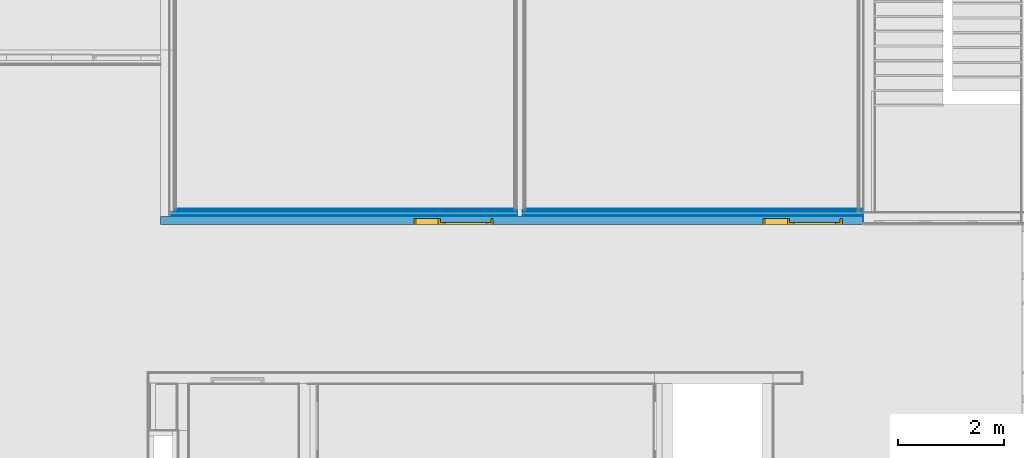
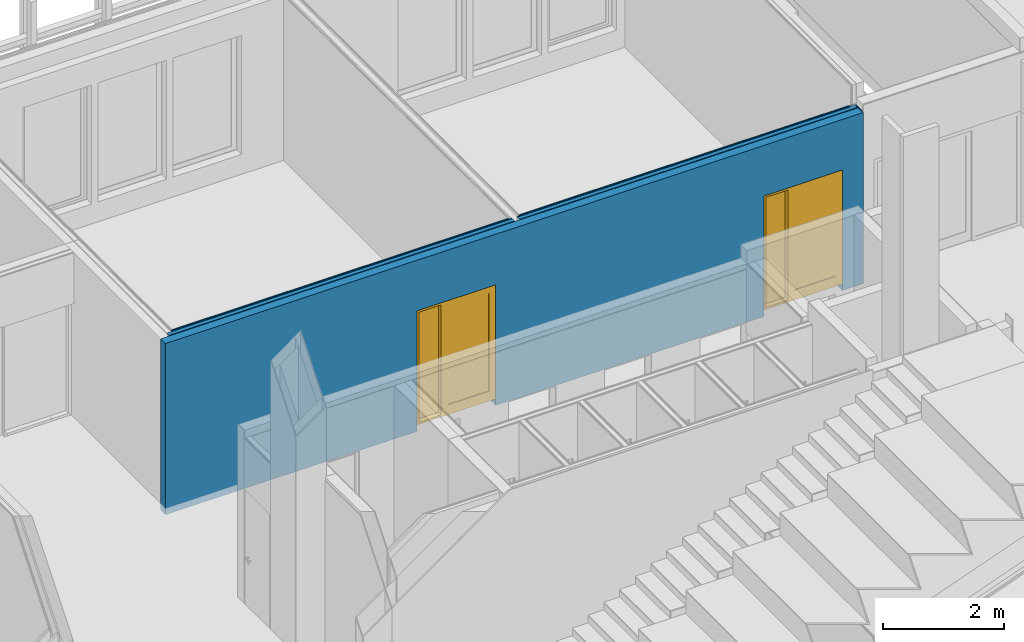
# One storey, part 61 of 139: 7 building element parts, 2 doors, 2 openings, 1 element without a shape of its own.
"""IFC2X3 building model written with IfcOpenShell, lengths in millimetres."""

from ifc_helpers import new_model, entity, si_unit, converted_unit, derived_unit, money_unit, direction, frame, origin_with_axes, place, context, subcontext, project, spatial, open_shell, faceted_brep, surface_model, source, transform, mapped, material, type_object, element, fill, aggregate, save


model = new_model("IFC2X3")

# Units and contexts
model_context = context("Model", 3, precision=0.01, world=origin_with_axes(), true_north=direction((0.0, 1.0)))
body_context = subcontext(model_context, "Body", "Model", "MODEL_VIEW")
ifc_project = project(units=[si_unit("LENGTHUNIT", "METRE", prefix="MILLI"), si_unit("AREAUNIT", "SQUARE_METRE"), si_unit("VOLUMEUNIT", "CUBIC_METRE"), converted_unit("PLANEANGLEUNIT", "DEGREE", entity("IfcPlaneAngleMeasure", 0.0174532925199), si_unit("PLANEANGLEUNIT", "RADIAN"), dimensions=[0, 0, 0, 0, 0, 0, 0]), money_unit("EUR"), converted_unit("TIMEUNIT", "Year", entity("IfcTimeMeasure", 31556926.0), si_unit("TIMEUNIT", "SECOND"), dimensions=[0, 0, 1, 0, 0, 0, 0]), si_unit("MASSUNIT", "GRAM", prefix="KILO"), si_unit("THERMODYNAMICTEMPERATUREUNIT", "DEGREE_CELSIUS"), si_unit("LUMINOUSINTENSITYUNIT", "LUMEN"), si_unit("ENERGYUNIT", "JOULE", prefix="MEGA"), derived_unit("THERMALCONDUCTANCEUNIT", [(si_unit("POWERUNIT", "WATT"), 1), (si_unit("LENGTHUNIT", "METRE"), -1), (si_unit("THERMODYNAMICTEMPERATUREUNIT", "KELVIN"), -1)]), derived_unit("SPECIFICHEATCAPACITYUNIT", [(si_unit("ENERGYUNIT", "JOULE"), 1), (si_unit("MASSUNIT", "GRAM", prefix="KILO"), -1), (si_unit("THERMODYNAMICTEMPERATUREUNIT", "KELVIN"), -1)]), derived_unit("MASSDENSITYUNIT", [(si_unit("MASSUNIT", "GRAM", prefix="KILO"), 1), (si_unit("VOLUMEUNIT", "CUBIC_METRE"), -1)])], contexts=[model_context])

# Site, building, storey
site_placement = place(None, origin_with_axes())
site = spatial("IfcSite", under=ifc_project, at=site_placement, Name="Kolde pst 67a", CompositionType="ELEMENT")
building_placement = place(site_placement, origin_with_axes())
building = spatial("IfcBuilding", under=site, at=building_placement, Name="Riigigümnaasium", CompositionType="ELEMENT")
storey_placement = place(building_placement, frame((0.0, 0.0, 4600.0), z_axis=(0.0, 0.0, 1.0), x_axis=(1.0, 0.0, 0.0)))
storey = spatial("IfcBuildingStorey", under=building, at=storey_placement, Name="2. korrus", CompositionType="ELEMENT", Elevation=4600.0)

# Door
door_style = type_object("IfcDoorStyle", Name="Door with Sidelight on Side 2 25", ConstructionType="NOTDEFINED", OperationType="SINGLE_SWING_LEFT", ParameterTakesPrecedence=False, Sizeable=False)
shared_shape = source(origin_with_axes(), body_context, "Body", "SurfaceModel", [
    faceted_brep([(750.0, 0.0, 0.0), (750.0, -115.0, 0.0), (710.0, -115.0, 0.0), (710.0, 0.0, 0.0), (750.0, 0.0, 2260.0), (750.0, -115.0, 2260.0), (710.0, -115.0, 2260.0), (710.0, -115.0, 40.0), (710.0, 0.0, 40.0), (710.0, 0.0, 2260.0)], [[[0, 1, 2, 3]], [[4, 5, 1, 0]], [[1, 5, 6, 7, 2]], [[3, 2, 7, 8]], [[0, 3, 8, 9, 4]], [[9, 6, 5, 4]], [[8, 7, 6, 9]]]),
    faceted_brep([(250.0, -40.0, 0.0), (250.0, -115.0, 0.0), (250.0, -115.0, 2260.0), (250.0, -40.0, 2260.0), (262.0, -40.0, 0.0), (262.0, 0.0, 0.0), (290.0, 0.0, 0.0), (290.0, -115.0, 0.0), (290.0, -115.0, 40.0), (290.0, -115.0, 2260.0), (262.0, -40.0, 2260.0), (290.0, 0.0, 2260.0), (262.0, 0.0, 2260.0), (290.0, 0.0, 40.0)], [[[0, 1, 2, 3]], [[4, 5, 6, 7, 1, 0]], [[7, 8, 9, 2, 1]], [[10, 3, 2, 9, 11, 12]], [[10, 4, 0, 3]], [[12, 5, 4, 10]], [[12, 11, 13, 6, 5]], [[6, 13, 8, 7]], [[13, 11, 9, 8]]]),
    faceted_brep([(710.0, 0.0, 40.0), (710.0, -115.0, 40.0), (710.0, -115.0, 0.0), (710.0, 0.0, 0.0), (290.0, 0.0, 40.0), (290.0, -115.0, 40.0), (290.0, -115.0, 0.0), (290.0, 0.0, 0.0)], [[[0, 1, 2, 3]], [[4, 5, 1, 0]], [[1, 5, 6, 2]], [[3, 2, 6, 7]], [[0, 3, 7, 4]], [[7, 6, 5, 4]]]),
    faceted_brep([(-722.0, -40.0, 2260.0), (-722.0, 0.0, 2260.0), (-750.0, 0.0, 2260.0), (-750.0, -115.0, 2260.0), (-710.0, -115.0, 2260.0), (-710.0, -40.0, 2260.0), (-722.0, -40.0, 0.0), (-722.0, 0.0, 0.0), (-750.0, 0.0, 0.0), (-750.0, -115.0, 0.0), (-710.0, -115.0, 0.0), (-710.0, -40.0, 0.0)], [[[0, 1, 2, 3, 4, 5]], [[0, 6, 7, 1]], [[7, 8, 2, 1]], [[2, 8, 9, 3]], [[3, 9, 10, 4]], [[5, 4, 10, 11]], [[5, 11, 6, 0]], [[6, 11, 10, 9, 8, 7]]]),
    faceted_brep([(262.0, 0.0, 2272.0), (-722.0, 0.0, 2272.0), (-722.0, 0.0, 2260.0), (-750.0, 0.0, 2260.0), (-750.0, 0.0, 2300.0), (750.0, 0.0, 2300.0), (750.0, 0.0, 2260.0), (710.0, 0.0, 2260.0), (290.0, 0.0, 2260.0), (262.0, 0.0, 2260.0), (262.0, -40.0, 2272.0), (-722.0, -40.0, 2272.0), (-722.0, -40.0, 2260.0), (-710.0, -40.0, 2260.0), (-710.0, -115.0, 2260.0), (-750.0, -115.0, 2260.0), (-750.0, -115.0, 2300.0), (750.0, -115.0, 2300.0), (750.0, -115.0, 2260.0), (710.0, -115.0, 2260.0), (290.0, -115.0, 2260.0), (262.0, -40.0, 2260.0), (250.0, -115.0, 2260.0)], [[[0, 1, 2, 3, 4, 5, 6, 7, 8, 9]], [[0, 10, 11, 1]], [[1, 11, 12, 2]], [[12, 13, 14, 15, 3, 2]], [[4, 3, 15, 16]], [[5, 4, 16, 17]], [[6, 5, 17, 18]], [[7, 6, 18, 19]], [[8, 7, 19, 20]], [[21, 9, 8, 20, 22, 14, 13]], [[9, 21, 10, 0]], [[12, 11, 10, 21, 13]], [[14, 22, 20, 19, 18, 17, 16, 15]]]),
    faceted_brep([(-722.0, 0.0, 200.0), (-622.0, 0.0, 200.0), (-622.0, -40.0, 200.0), (-722.0, -40.0, 200.0), (-722.0, 0.0, 2172.0), (-622.0, 0.0, 2172.0), (-622.0, -40.0, 2172.0), (-722.0, -40.0, 2172.0)], [[[0, 1, 2, 3]], [[0, 4, 5, 1]], [[1, 5, 6, 2]], [[3, 2, 6, 7]], [[4, 0, 3, 7]], [[5, 4, 7, 6]]]),
    faceted_brep([(262.0, 0.0, 200.0), (262.0, 0.0, 2172.0), (262.0, -40.0, 2172.0), (262.0, -40.0, 200.0), (162.0, 0.0, 200.0), (162.0, 0.0, 2172.0), (162.0, -40.0, 2172.0), (162.0, -40.0, 200.0)], [[[0, 1, 2, 3]], [[0, 4, 5, 1]], [[1, 5, 6, 2]], [[3, 2, 6, 7]], [[4, 0, 3, 7]], [[5, 4, 7, 6]]]),
    faceted_brep([(-722.0, 0.0, 0.0), (262.0, 0.0, 0.0), (262.0, -40.0, 0.0), (-722.0, -40.0, 0.0), (-722.0, 0.0, 200.0), (-622.0, 0.0, 200.0), (162.0, 0.0, 200.0), (262.0, 0.0, 200.0), (262.0, -40.0, 200.0), (162.0, -40.0, 200.0), (-622.0, -40.0, 200.0), (-722.0, -40.0, 200.0)], [[[0, 1, 2, 3]], [[0, 4, 5, 6, 7, 1]], [[1, 7, 8, 2]], [[3, 2, 8, 9, 10, 11]], [[4, 0, 3, 11]], [[5, 4, 11, 10]], [[6, 5, 10, 9]], [[7, 6, 9, 8]]]),
    faceted_brep([(-722.0, 0.0, 2272.0), (-722.0, 0.0, 2172.0), (-722.0, -40.0, 2172.0), (-722.0, -40.0, 2272.0), (262.0, 0.0, 2272.0), (262.0, 0.0, 2172.0), (162.0, 0.0, 2172.0), (-622.0, 0.0, 2172.0), (-622.0, -40.0, 2172.0), (162.0, -40.0, 2172.0), (262.0, -40.0, 2172.0), (262.0, -40.0, 2272.0)], [[[0, 1, 2, 3]], [[0, 4, 5, 6, 7, 1]], [[1, 7, 8, 2]], [[3, 2, 8, 9, 10, 11]], [[4, 0, 3, 11]], [[5, 4, 11, 10]], [[6, 5, 10, 9]], [[7, 6, 9, 8]]]),
    surface_model("IfcShellBasedSurfaceModel", [(-622.0, -14.0, 200.0), (-622.0, -14.0, 2172.0), (162.0, -14.0, 2172.0), (162.0, -14.0, 200.0)], [open_shell([[[0, 1, 2, 3]]])]),
    surface_model("IfcShellBasedSurfaceModel", [(-622.0, -26.0, 200.0), (162.0, -26.0, 200.0), (162.0, -26.0, 2172.0), (-622.0, -26.0, 2172.0)], [open_shell([[[0, 1, 2, 3]]])]),
    surface_model("IfcShellBasedSurfaceModel", [(710.0, -91.0, 40.0), (290.0, -91.0, 40.0), (290.0, -91.0, 2260.0), (710.0, -91.0, 2260.0)], [open_shell([[[0, 1, 2, 3]]])]),
    surface_model("IfcShellBasedSurfaceModel", [(710.0, -103.0, 40.0), (710.0, -103.0, 2260.0), (290.0, -103.0, 2260.0), (290.0, -103.0, 40.0)], [open_shell([[[0, 1, 2, 3]]])]),
])
wall_placement = place(storey_placement, frame((36439.99923, 52580.0001843, -130.0), z_axis=(0.0, 0.0, 1.0), x_axis=(1.0, 0.0, 0.0)))
opening_1_placement = place(wall_placement, frame((12000.0108255, 0.0, 130.0), z_axis=(0.0, 0.0, 1.0), x_axis=(1.0, 0.0, 0.0)))
door_1_placement = place(opening_1_placement, frame((750.0, 0.0, 0.0), z_axis=(0.0, 0.0, 1.0), x_axis=(-1.0, 0.0, 0.0)))
door_1 = element("IfcDoor", 1, at=door_1_placement, inside=storey, type_object=door_style, Name="Siseuks", ObjectType="DOOR", OverallHeight=2300.0, OverallWidth=1500.0, context=body_context, shape_type="MappedRepresentation", body=[
    mapped(shared_shape, transform((750.0, 0.0, 0.0))),
])

opening_2_placement = place(wall_placement, frame((5388.04214934, 0.0, 130.0), z_axis=(0.0, 0.0, 1.0), x_axis=(1.0, 0.0, 0.0)))
door_2_placement = place(opening_2_placement, frame((750.0, 0.0, 0.0), z_axis=(0.0, 0.0, 1.0), x_axis=(-1.0, 0.0, 0.0)))
door_2 = element("IfcDoor", 2, at=door_2_placement, inside=storey, type_object=door_style, Name="Siseuks", ObjectType="DOOR", OverallHeight=2300.0, OverallWidth=1500.0, context=body_context, shape_type="MappedRepresentation", body=[
    mapped(shared_shape, transform((750.0, 0.0, 0.0))),
])

# Wall, opening
wall_type = type_object("IfcWallType", Name="SS-CLT-16/1_vill75+krohv 52 dB 300", PredefinedType="NOTDEFINED")
wall = element("IfcWall", 3, at=wall_placement, inside=storey, type_object=wall_type, Name="Sisesein")
opening_1 = element("IfcOpeningElement", 4, at=opening_1_placement, cuts=wall, Name="Siseuks", context=body_context, shape_type="Brep", body=[
    faceted_brep([(750.0, -600.0, 2300.0), (750.0, -600.0, 0.0), (750.0, 300.0, 0.0), (750.0, 300.0, 2300.0), (-750.0, -600.0, 2300.0), (-750.0, -600.0, 0.0), (-750.0, 300.0, 0.0), (-750.0, 300.0, 2300.0)], [[[0, 1, 2, 3]], [[0, 4, 5, 1]], [[1, 5, 6, 2]], [[3, 2, 6, 7]], [[4, 0, 3, 7]], [[5, 4, 7, 6]]]),
])

fill(opening_1, door_1)

# Opening
opening_2 = element("IfcOpeningElement", 5, at=opening_2_placement, cuts=wall, Name="Siseuks", context=body_context, shape_type="Brep", body=[
    faceted_brep([(750.0, -600.0, 2300.0), (750.0, -600.0, 0.0), (750.0, 300.0, 0.0), (750.0, 300.0, 2300.0), (-750.0, -600.0, 2300.0), (-750.0, -600.0, 0.0), (-750.0, 300.0, 0.0), (-750.0, 300.0, 2300.0)], [[[0, 1, 2, 3]], [[0, 4, 5, 1]], [[1, 5, 6, 2]], [[3, 2, 6, 7]], [[4, 0, 3, 7]], [[5, 4, 7, 6]]]),
])

fill(opening_2, door_2)

# Building element part
ifc_material_1 = material(Name="_VIIMISTLUSKIHT - viimistlus vastavalt SA osale")
building_element_part_1_placement = place(wall_placement, origin_with_axes())
building_element_part_1 = element("IfcBuildingElementPart", 6, at=building_element_part_1_placement, material=ifc_material_1, Name="_VIIMISTLUSKIHT - viimistlus vastavalt SA osale", context=body_context, shape_type="Brep", body=[
    faceted_brep([(4638.04214934, 300.0, 2430.0), (4638.04214934, 300.0, 130.0), (130.0, 300.0, 130.0), (130.0, 300.0, 3450.0), (6543.04214934, 300.0, 3450.0), (6543.04214934, 300.0, 130.0), (6138.04214934, 300.0, 130.0), (6138.04214934, 300.0, 2430.0), (4638.04214934, 290.0, 2430.0), (4638.04214934, 290.0, 130.0), (130.0, 290.0, 130.0), (130.0, 290.0, 3450.0), (6543.04214934, 290.0, 3450.0), (6543.04214934, 290.0, 130.0), (6138.04214934, 290.0, 130.0), (6138.04214934, 290.0, 2430.0)], [[[0, 1, 2, 3, 4, 5, 6, 7]], [[1, 0, 8, 9]], [[1, 9, 10, 2]], [[3, 2, 10, 11]], [[4, 3, 11, 12]], [[12, 13, 5, 4]], [[14, 6, 5, 13]], [[7, 6, 14, 15]], [[0, 7, 15, 8]], [[15, 14, 13, 12, 11, 10, 9, 8]]]),
    faceted_brep([(11250.0108255, 300.0, 2430.0), (11250.0108255, 300.0, 130.0), (6753.04214934, 300.0, 130.0), (6753.04214934, 300.0, 3450.0), (13140.6524653, 300.0, 3450.0), (13140.6524653, 300.0, 3470.0), (13150.0108255, 300.0, 3470.0), (13150.0108255, 300.0, 130.0), (12750.0108255, 300.0, 130.0), (12750.0108255, 300.0, 2430.0), (11250.0108255, 290.0, 2430.0), (11250.0108255, 290.0, 130.0), (6753.04214934, 290.0, 130.0), (6753.04214934, 290.0, 3450.0), (13140.6397328, 290.0, 3450.0), (13140.6397328, 290.0, 3470.0), (13150.0108255, 290.0, 3470.0), (13150.0108255, 290.0, 130.0), (12750.0108255, 290.0, 130.0), (12750.0108255, 290.0, 2430.0)], [[[0, 1, 2, 3, 4, 5, 6, 7, 8, 9]], [[1, 0, 10, 11]], [[1, 11, 12, 2]], [[3, 2, 12, 13]], [[3, 13, 14, 4]], [[5, 4, 14, 15]], [[15, 16, 6, 5]], [[7, 6, 16, 17]], [[18, 8, 7, 17]], [[9, 8, 18, 19]], [[0, 9, 19, 10]], [[19, 18, 17, 16, 15, 14, 13, 12, 11, 10]]]),
])

ifc_material_2 = material(Name="_PLAATMATERJAL - tuletõkkekipsplaat, Knauf Red GKF või samaväärne")
building_element_part_2_placement = place(wall_placement, origin_with_axes())
building_element_part_2 = element("IfcBuildingElementPart", 7, at=building_element_part_2_placement, material=ifc_material_2, Name="_PLAATMATERJAL - tuletõkkekipsplaat, Knauf Red GKF või samaväärne", context=body_context, shape_type="Brep", body=[
    faceted_brep([(4638.04214934, 290.0, 2430.0), (4638.04214934, 290.0, 130.0), (4638.04214934, 290.0, 127.0), (115.0, 290.0, 127.0), (115.0, 290.0, 3450.0), (6558.04214934, 290.0, 3450.0), (6558.04214934, 290.0, 127.0), (6138.04214934, 290.0, 127.0), (6138.04214934, 290.0, 130.0), (6138.04214934, 290.0, 2430.0), (4638.04214934, 275.0, 2430.0), (4638.04214934, 275.0, 130.0), (4638.04214934, 275.0, 127.0), (115.0, 275.0, 127.0), (115.0, 275.0, 3450.0), (6558.04214934, 275.0, 3450.0), (6558.04214934, 275.0, 127.0), (6138.04214934, 275.0, 127.0), (6138.04214934, 275.0, 130.0), (6138.04214934, 275.0, 2430.0)], [[[0, 1, 2, 3, 4, 5, 6, 7, 8, 9]], [[1, 0, 10, 11]], [[1, 11, 12, 2]], [[12, 13, 3, 2]], [[4, 3, 13, 14]], [[5, 4, 14, 15]], [[15, 16, 6, 5]], [[7, 6, 16, 17]], [[18, 8, 7, 17]], [[9, 8, 18, 19]], [[0, 9, 19, 10]], [[19, 18, 17, 16, 15, 14, 13, 12, 11, 10]]]),
    faceted_brep([(11250.0108255, 290.0, 2430.0), (11250.0108255, 290.0, 130.0), (11250.0108255, 290.0, 127.0), (6738.04214934, 290.0, 127.0), (6738.04214934, 290.0, 3450.0), (13140.6397328, 290.0, 3450.0), (13140.6397328, 290.0, 3470.0), (13150.0108255, 290.0, 3470.0), (13150.0108255, 290.0, 127.0), (12750.0108255, 290.0, 127.0), (12750.0108255, 290.0, 130.0), (12750.0108255, 290.0, 2430.0), (11250.0108255, 275.0, 2430.0), (11250.0108255, 275.0, 130.0), (11250.0108255, 275.0, 127.0), (6738.04214934, 275.0, 127.0), (6738.04214934, 275.0, 3450.0), (13140.6206341, 275.0, 3450.0), (13140.6206341, 275.0, 3470.0), (13150.0108255, 275.0, 3470.0), (13150.0108255, 275.0, 127.0), (12750.0108255, 275.0, 127.0), (12750.0108255, 275.0, 130.0), (12750.0108255, 275.0, 2430.0)], [[[0, 1, 2, 3, 4, 5, 6, 7, 8, 9, 10, 11]], [[1, 0, 12, 13]], [[1, 13, 14, 2]], [[14, 15, 3, 2]], [[4, 3, 15, 16]], [[4, 16, 17, 5]], [[6, 5, 17, 18]], [[18, 19, 7, 6]], [[8, 7, 19, 20]], [[9, 8, 20, 21]], [[22, 10, 9, 21]], [[11, 10, 22, 23]], [[0, 11, 23, 12]], [[23, 22, 21, 20, 19, 18, 17, 16, 15, 14, 13, 12]]]),
])

building_element_part_3_placement = place(wall_placement, origin_with_axes())
building_element_part_3 = element("IfcBuildingElementPart", 8, at=building_element_part_3_placement, material=ifc_material_2, Name="_PLAATMATERJAL - tuletõkkekipsplaat, Knauf Red GKF või samaväärne", context=body_context, shape_type="Brep", body=[
    faceted_brep([(4638.04214934, 275.0, 2430.0), (4638.04214934, 275.0, 130.0), (4638.04214934, 275.0, 127.0), (100.0, 275.0, 127.0), (100.0, 275.0, 3450.0), (6598.04214934, 275.0, 3450.0), (6598.04214934, 275.0, 127.0), (6138.04214934, 275.0, 127.0), (6138.04214934, 275.0, 130.0), (6138.04214934, 275.0, 2430.0), (4638.04214934, 260.0, 2430.0), (4638.04214934, 260.0, 130.0), (4638.04214934, 260.0, 127.0), (100.0, 260.0, 127.0), (100.0, 260.0, 3450.0), (6598.04214934, 260.0, 3450.0), (6598.04214934, 260.0, 127.0), (6138.04214934, 260.0, 127.0), (6138.04214934, 260.0, 130.0), (6138.04214934, 260.0, 2430.0)], [[[0, 1, 2, 3, 4, 5, 6, 7, 8, 9]], [[1, 0, 10, 11]], [[1, 11, 12, 2]], [[12, 13, 3, 2]], [[4, 3, 13, 14]], [[5, 4, 14, 15]], [[15, 16, 6, 5]], [[7, 6, 16, 17]], [[18, 8, 7, 17]], [[9, 8, 18, 19]], [[0, 9, 19, 10]], [[19, 18, 17, 16, 15, 14, 13, 12, 11, 10]]]),
    faceted_brep([(11250.0108255, 275.0, 2430.0), (11250.0108255, 275.0, 130.0), (11250.0108255, 275.0, 127.0), (6698.04214934, 275.0, 127.0), (6698.04214934, 275.0, 3450.0), (13140.6206341, 275.0, 3450.0), (13140.6206341, 275.0, 3470.0), (13150.0108255, 275.0, 3470.0), (13150.0108255, 275.0, 127.0), (12750.0108255, 275.0, 127.0), (12750.0108255, 275.0, 130.0), (12750.0108255, 275.0, 2430.0), (11250.0108255, 260.0, 2430.0), (11250.0108255, 260.0, 130.0), (11250.0108255, 260.0, 127.0), (6698.04214934, 260.0, 127.0), (6698.04214934, 260.0, 3450.0), (13140.6015354, 260.0, 3450.0), (13140.6015354, 260.0, 3470.0), (13150.0108255, 260.0, 3470.0), (13150.0108255, 260.0, 127.0), (12750.0108255, 260.0, 127.0), (12750.0108255, 260.0, 130.0), (12750.0108255, 260.0, 2430.0)], [[[0, 1, 2, 3, 4, 5, 6, 7, 8, 9, 10, 11]], [[1, 0, 12, 13]], [[1, 13, 14, 2]], [[14, 15, 3, 2]], [[4, 3, 15, 16]], [[4, 16, 17, 5]], [[6, 5, 17, 18]], [[18, 19, 7, 6]], [[8, 7, 19, 20]], [[9, 8, 20, 21]], [[22, 10, 9, 21]], [[11, 10, 22, 23]], [[0, 11, 23, 12]], [[23, 22, 21, 20, 19, 18, 17, 16, 15, 14, 13, 12]]]),
])

ifc_material_3 = material(Name="_PLAATMATERJAL - OSB3 plaat")
building_element_part_4_placement = place(wall_placement, origin_with_axes())
building_element_part_4 = element("IfcBuildingElementPart", 9, at=building_element_part_4_placement, material=ifc_material_3, Name="_PLAATMATERJAL - OSB3 plaat", context=body_context, shape_type="Brep", body=[
    faceted_brep([(4638.04214934, 260.0, 2430.0), (4638.04214934, 260.0, 130.0), (4638.04214934, 260.0, 127.0), (90.0, 260.0, 127.0), (90.0, 260.0, 3450.0), (6598.04214934, 260.0, 3450.0), (6598.04214934, 260.0, 127.0), (6138.04214934, 260.0, 127.0), (6138.04214934, 260.0, 130.0), (6138.04214934, 260.0, 2430.0), (4638.04214934, 250.0, 2430.0), (4638.04214934, 250.0, 130.0), (4638.04214934, 250.0, 127.0), (90.0, 250.0, 127.0), (90.0, 250.0, 3450.0), (6598.04214934, 250.0, 3450.0), (6598.04214934, 250.0, 127.0), (6138.04214934, 250.0, 127.0), (6138.04214934, 250.0, 130.0), (6138.04214934, 250.0, 2430.0)], [[[0, 1, 2, 3, 4, 5, 6, 7, 8, 9]], [[1, 0, 10, 11]], [[1, 11, 12, 2]], [[12, 13, 3, 2]], [[4, 3, 13, 14]], [[5, 4, 14, 15]], [[15, 16, 6, 5]], [[7, 6, 16, 17]], [[18, 8, 7, 17]], [[9, 8, 18, 19]], [[0, 9, 19, 10]], [[19, 18, 17, 16, 15, 14, 13, 12, 11, 10]]]),
    faceted_brep([(11250.0108255, 260.0, 2430.0), (11250.0108255, 260.0, 130.0), (11250.0108255, 260.0, 127.0), (6698.04214934, 260.0, 127.0), (6698.04214934, 260.0, 3450.0), (13140.6015354, 260.0, 3450.0), (13140.6015354, 260.0, 3470.0), (13150.0108255, 260.0, 3470.0), (13150.0108255, 260.0, 127.0), (12750.0108255, 260.0, 127.0), (12750.0108255, 260.0, 130.0), (12750.0108255, 260.0, 2430.0), (11250.0108255, 250.0, 2430.0), (11250.0108255, 250.0, 130.0), (11250.0108255, 250.0, 127.0), (6698.04214934, 250.0, 127.0), (6698.04214934, 250.0, 3450.0), (13140.588803, 250.0, 3450.0), (13140.588803, 250.0, 3470.0), (13150.0108255, 250.0, 3470.0), (13150.0108255, 250.0, 127.0), (12750.0108255, 250.0, 127.0), (12750.0108255, 250.0, 130.0), (12750.0108255, 250.0, 2430.0)], [[[0, 1, 2, 3, 4, 5, 6, 7, 8, 9, 10, 11]], [[1, 0, 12, 13]], [[1, 13, 14, 2]], [[14, 15, 3, 2]], [[4, 3, 15, 16]], [[4, 16, 17, 5]], [[6, 5, 17, 18]], [[18, 19, 7, 6]], [[8, 7, 19, 20]], [[9, 8, 20, 21]], [[22, 10, 9, 21]], [[11, 10, 22, 23]], [[0, 11, 23, 12]], [[23, 22, 21, 20, 19, 18, 17, 16, 15, 14, 13, 12]]]),
])

ifc_material_4 = material(Name="_KARKASS - metallkarkass CW 75/50/06 ja UW 75/40/06, samm 600, vahel mineraalvill, helineeldetegur αw = 1.0,  ISOVER ACOUSTIC 75mm või samaväärne")
building_element_part_5_placement = place(wall_placement, origin_with_axes())
building_element_part_5 = element("IfcBuildingElementPart", 10, at=building_element_part_5_placement, material=ifc_material_4, Name="_KARKASS - metallkarkass CW 75/50/06 ja UW 75/40/06, samm 600, vahel mineraalvill, helineeldetegur αw = 1.0,  ISOVER ACOUSTIC 75mm või samaväärne", context=body_context, shape_type="Brep", body=[
    faceted_brep([(4638.04214934, 250.0, 2430.0), (4638.04214934, 250.0, 130.0), (4638.04214934, 250.0, 127.0), (15.0, 250.0, 127.0), (15.0, 250.0, 3450.0), (6598.04214934, 250.0, 3450.0), (6598.04214934, 250.0, 127.0), (6138.04214934, 250.0, 127.0), (6138.04214934, 250.0, 130.0), (6138.04214934, 250.0, 2430.0), (4638.04214934, 175.0, 2430.0), (4638.04214934, 175.0, 130.0), (4638.04214934, 175.0, 127.0), (15.0, 175.0, 127.0), (15.0, 175.0, 3450.0), (6598.04214934, 175.0, 3450.0), (6598.04214934, 175.0, 127.0), (6138.04214934, 175.0, 127.0), (6138.04214934, 175.0, 130.0), (6138.04214934, 175.0, 2430.0)], [[[0, 1, 2, 3, 4, 5, 6, 7, 8, 9]], [[1, 0, 10, 11]], [[1, 11, 12, 2]], [[12, 13, 3, 2]], [[4, 3, 13, 14]], [[5, 4, 14, 15]], [[15, 16, 6, 5]], [[7, 6, 16, 17]], [[18, 8, 7, 17]], [[9, 8, 18, 19]], [[0, 9, 19, 10]], [[19, 18, 17, 16, 15, 14, 13, 12, 11, 10]]]),
    faceted_brep([(11250.0108255, 250.0, 2430.0), (11250.0108255, 250.0, 130.0), (11250.0108255, 250.0, 127.0), (6698.04214934, 250.0, 127.0), (6698.04214934, 250.0, 3450.0), (13140.588803, 250.0, 3450.0), (13140.588803, 250.0, 3470.0), (13150.0108255, 250.0, 3470.0), (13150.0108255, 250.0, 127.0), (12750.0108255, 250.0, 127.0), (12750.0108255, 250.0, 130.0), (12750.0108255, 250.0, 2430.0), (11250.0108255, 175.0, 2430.0), (11250.0108255, 175.0, 130.0), (11250.0108255, 175.0, 127.0), (6698.04214934, 175.0, 127.0), (6698.04214934, 175.0, 3450.0), (13140.4933095, 175.0, 3450.0), (13140.4933095, 175.0, 3470.0), (13150.0108255, 175.0, 3470.0), (13150.0108255, 175.0, 127.0), (12750.0108255, 175.0, 127.0), (12750.0108255, 175.0, 130.0), (12750.0108255, 175.0, 2430.0)], [[[0, 1, 2, 3, 4, 5, 6, 7, 8, 9, 10, 11]], [[1, 0, 12, 13]], [[1, 13, 14, 2]], [[14, 15, 3, 2]], [[4, 3, 15, 16]], [[4, 16, 17, 5]], [[6, 5, 17, 18]], [[18, 19, 7, 6]], [[8, 7, 19, 20]], [[9, 8, 20, 21]], [[22, 10, 9, 21]], [[11, 10, 22, 23]], [[0, 11, 23, 12]], [[23, 22, 21, 20, 19, 18, 17, 16, 15, 14, 13, 12]]]),
])

ifc_material_5 = material(Name="_ÕHKVAHE")
building_element_part_6_placement = place(wall_placement, origin_with_axes())
building_element_part_6 = element("IfcBuildingElementPart", 11, at=building_element_part_6_placement, material=ifc_material_5, Name="_ÕHKVAHE", context=body_context, shape_type="Brep", body=[
    faceted_brep([(4638.04214934, 175.0, 2430.0), (4638.04214934, 175.0, 130.0), (4638.04214934, 175.0, 127.0), (0.0, 175.0, 127.0), (0.0, 175.0, 3450.0), (6598.04214934, 175.0, 3450.0), (6598.04214934, 175.0, 127.0), (6138.04214934, 175.0, 127.0), (6138.04214934, 175.0, 130.0), (6138.04214934, 175.0, 2430.0), (4638.04214934, 160.0, 2430.0), (4638.04214934, 160.0, 130.0), (4638.04214934, 160.0, 127.0), (0.0, 160.0, 127.0), (0.0, 160.0, 3450.0), (6598.04214934, 160.0, 3450.0), (6598.04214934, 160.0, 127.0), (6138.04214934, 160.0, 127.0), (6138.04214934, 160.0, 130.0), (6138.04214934, 160.0, 2430.0)], [[[0, 1, 2, 3, 4, 5, 6, 7, 8, 9]], [[1, 0, 10, 11]], [[1, 11, 12, 2]], [[12, 13, 3, 2]], [[4, 3, 13, 14]], [[5, 4, 14, 15]], [[15, 16, 6, 5]], [[7, 6, 16, 17]], [[18, 8, 7, 17]], [[9, 8, 18, 19]], [[0, 9, 19, 10]], [[19, 18, 17, 16, 15, 14, 13, 12, 11, 10]]]),
    faceted_brep([(11250.0108255, 175.0, 2430.0), (11250.0108255, 175.0, 130.0), (11250.0108255, 175.0, 127.0), (6698.04214934, 175.0, 127.0), (6698.04214934, 175.0, 3450.0), (13140.4933095, 175.0, 3450.0), (13140.4933095, 175.0, 3470.0), (13150.0108255, 175.0, 3470.0), (13150.0108255, 175.0, 127.0), (12750.0108255, 175.0, 127.0), (12750.0108255, 175.0, 130.0), (12750.0108255, 175.0, 2430.0), (11250.0108255, 160.0, 2430.0), (11250.0108255, 160.0, 130.0), (11250.0108255, 160.0, 127.0), (6698.04214934, 160.0, 127.0), (6698.04214934, 160.0, 3450.0), (13140.4742108, 160.0, 3450.0), (13140.4742108, 160.0, 3470.0), (13150.0108255, 160.0, 3470.0), (13150.0108255, 160.0, 127.0), (12750.0108255, 160.0, 127.0), (12750.0108255, 160.0, 130.0), (12750.0108255, 160.0, 2430.0)], [[[0, 1, 2, 3, 4, 5, 6, 7, 8, 9, 10, 11]], [[1, 0, 12, 13]], [[1, 13, 14, 2]], [[14, 15, 3, 2]], [[4, 3, 15, 16]], [[4, 16, 17, 5]], [[6, 5, 17, 18]], [[18, 19, 7, 6]], [[8, 7, 19, 20]], [[9, 8, 20, 21]], [[22, 10, 9, 21]], [[11, 10, 22, 23]], [[0, 11, 23, 12]], [[23, 22, 21, 20, 19, 18, 17, 16, 15, 14, 13, 12]]]),
])

ifc_material_6 = material(Name="_KANDETARIND - CLT ristkihtliimpuit vastavalt EK osale, CLT paigaldusvuugid teibitakse ROTHOBLAAS teibiga")
building_element_part_7_placement = place(wall_placement, origin_with_axes())
building_element_part_7 = element("IfcBuildingElementPart", 12, at=building_element_part_7_placement, material=ifc_material_6, Name="_KANDETARIND - CLT ristkihtliimpuit vastavalt EK osale, CLT paigaldusvuugid teibitakse ROTHOBLAAS teibiga", context=body_context, shape_type="Brep", body=[
    faceted_brep([(4638.04214934, 160.0, 2430.0), (4638.04214934, 160.0, 130.0), (4638.04214934, 160.0, 0.0), (-160.0, 160.0, 0.0), (-160.0, 160.0, 3450.0), (13140.4742108, 160.0, 3450.0), (13140.4742108, 160.0, 3470.0), (13150.0108255, 160.0, 3470.0), (13150.0108255, 160.0, 0.0), (12750.0108255, 160.0, 0.0), (12750.0108255, 160.0, 130.0), (12750.0108255, 160.0, 2430.0), (11250.0108255, 160.0, 2430.0), (11250.0108255, 160.0, 130.0), (11250.0108255, 160.0, 0.0), (6138.04214934, 160.0, 0.0), (6138.04214934, 160.0, 130.0), (6138.04214934, 160.0, 2430.0), (4638.04214934, 0.0, 2430.0), (4638.04214934, 0.0, 130.0), (4638.04214934, 0.0, 0.0), (-160.0, 0.0, 0.0), (-160.0, 0.0, 3450.0), (13150.0108255, 0.0, 3450.0), (13150.0108255, 30.2582344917, 3450.0), (13140.3090198, 30.2600020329, 3450.0), (13140.3090198, 30.2600020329, 3470.0), (13150.0108255, 30.2582344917, 3470.0), (13150.0108255, 0.0, 0.0), (12750.0108255, 0.0, 0.0), (12750.0108255, 0.0, 130.0), (12750.0108255, 0.0, 2430.0), (11250.0108255, 0.0, 2430.0), (11250.0108255, 0.0, 130.0), (11250.0108255, 0.0, 0.0), (6138.04214934, 0.0, 0.0), (6138.04214934, 0.0, 130.0), (6138.04214934, 0.0, 2430.0)], [[[0, 1, 2, 3, 4, 5, 6, 7, 8, 9, 10, 11, 12, 13, 14, 15, 16, 17]], [[1, 0, 18, 19]], [[1, 19, 20, 2]], [[21, 3, 2, 20]], [[3, 21, 22, 4]], [[23, 24, 25, 5, 4, 22]], [[5, 25, 26, 6]], [[27, 7, 6, 26]], [[24, 23, 28, 8, 7, 27]], [[8, 28, 29, 9]], [[10, 9, 29, 30]], [[10, 30, 31, 11]], [[11, 31, 32, 12]], [[12, 32, 33, 13]], [[33, 34, 14, 13]], [[35, 15, 14, 34]], [[36, 16, 15, 35]], [[17, 16, 36, 37]], [[0, 17, 37, 18]], [[37, 36, 35, 34, 33, 32, 31, 30, 29, 28, 23, 22, 21, 20, 19, 18]], [[26, 25, 24, 27]]]),
])

aggregate(wall, [building_element_part_1, building_element_part_2, building_element_part_3, building_element_part_4, building_element_part_5, building_element_part_6, building_element_part_7])

save(model, "model.ifc")
